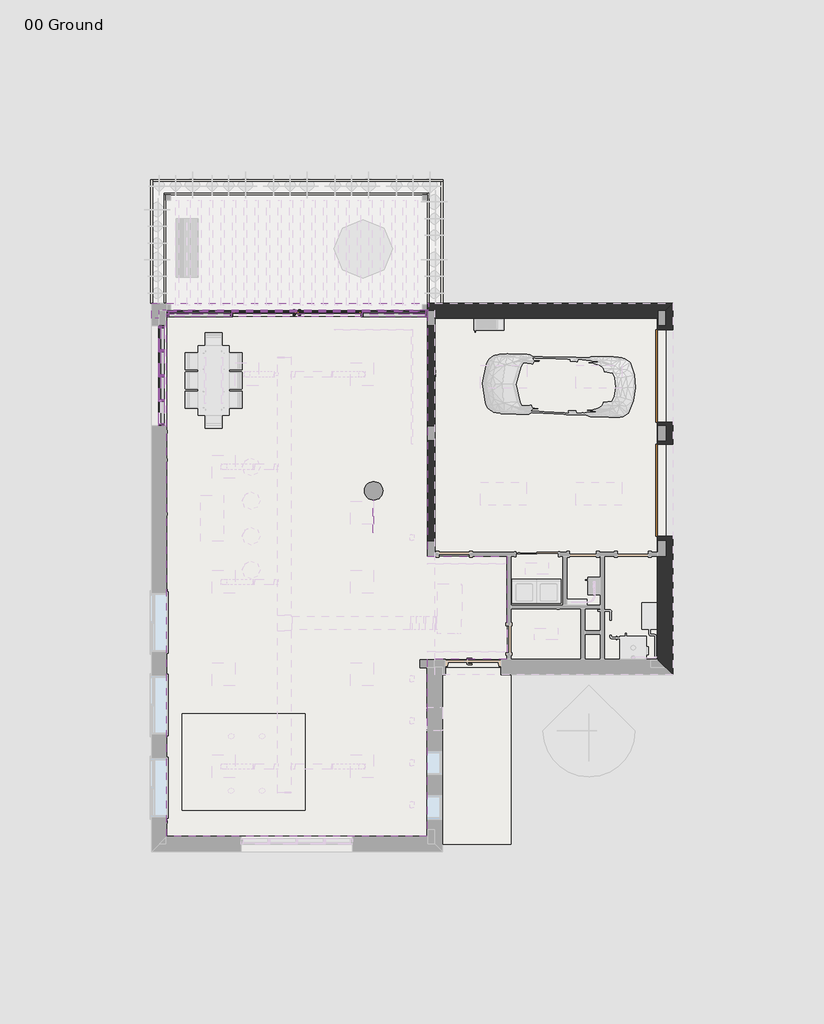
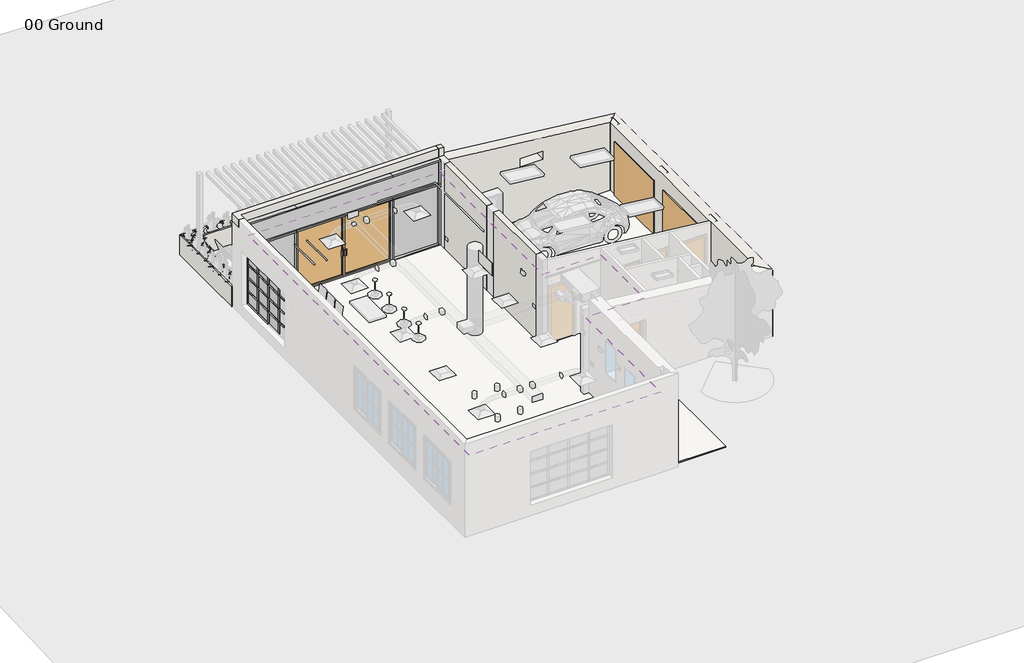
# One storey, part 2 of 7: 50 members, 15 plates, 12 walls, 5 slabs, 3 doors, 1 covering.
"""IFC4 building model written with IfcOpenShell, lengths in millimetres."""

from ifc_helpers import new_model, si_unit, point, frame, frame_2d, origin, origin_with_axes, place, context, project, spatial, polyline, circle_curve, trimmed, segment, composite_curve, outline, extrude, faceted_brep, transform, mapped, element, save
from components import m_door_curtain_wall_double_storefront_m_door_curtain_wall_edb91ac7, m_door_overhead_sectional_2400_x_2000mm_9fe30cd6, rectangular_mullion_50_x_150mm_b8963a12, rectangular_mullion_50_x_150mm_ca64fab8, rectangular_mullion_50_x_150mm_c8600b0d, rectangular_mullion_50_x_150mm_7893aaae, rectangular_mullion_50_x_150mm_57f910c3, rectangular_mullion_50_x_150mm_ec782ea6, rectangular_mullion_50_x_150mm_8753ce05, rectangular_mullion_50_x_150mm_324a6438, rectangular_mullion_50_x_150mm_5618a3b2, rectangular_mullion_50_x_150mm_9d7ed0e7, rectangular_mullion_50_x_150mm_3942d5f1, rectangular_mullion_50_x_150mm_75048c14, rectangular_mullion_50_x_150mm_567eccab, rectangular_mullion_50_x_150mm_22f77a7a, rectangular_mullion_50_x_150mm_0a8c3443, rectangular_mullion_50_x_150mm_b3666dbd, rectangular_mullion_50_x_150mm_fcf054f2, rectangular_mullion_50_x_150mm_24157160, rectangular_mullion_50_x_150mm_bf0cb304, system_panel_glazed_18425fd7, system_panel_glazed_5c27190a, system_panel_glazed_fdc58650, system_panel_glazed_d06015c9, system_panel_glazed_e38ec663, system_panel_glazed_707fa540, system_panel_solid_6db23722

model = new_model("IFC4")

# Units and contexts
model_context = context("Model", 3, world=origin())
ifc_project = project(units=[si_unit("LENGTHUNIT", "METRE", prefix="MILLI")], contexts=[model_context])

# Site, building, storey
site = spatial("IfcSite", under=ifc_project)
building = spatial("IfcBuilding", under=site)
storey = spatial("IfcBuildingStorey", under=building, Name="00 Ground", Elevation=0.0)

# Covering
placement = place(None, origin())
element("IfcCovering", 1, ObjectType="600 x 600mm Grid", at=placement, inside=storey, context=model_context, shape_type="SweptSolid", body=[
    extrude(outline(polyline([(746.9592001, -62.7101648), (746.9592001, -2749.7101648), (-1335.5407999, -2749.7101648), (-1335.5407999, -7349.7101648), (-8109.5407999, -7349.7101648), (-8109.5407999, 6242.2898352), (-1322.5407999, 6242.2898352), (-1322.5407999, -62.7101648), (746.9592001, -62.7101648)]), holes=[composite_curve([segment(trimmed(circle_curve(frame_2d((-2722.5259059, 1637.3625525)), 1040.0291404), [point((-2709.6572376, 597.4130295))], [point((-3567.9307523, 2243.1275717))], True, "CARTESIAN"), True, "CONTINUOUS"), segment(polyline([(-3567.9307523, 2243.1275717), (-2917.4905837, 1777.2704832)]), True, "CONTINUOUS"), segment(trimmed(circle_curve(frame_2d((-2722.5407999, 1637.2898352)), 240.0), [point((-2917.4905837, 1777.2704832))], [point((-2722.1471238, 1397.2901581))], True, "CARTESIAN"), True, "CONTINUOUS"), segment(polyline([(-2722.1471238, 1397.2901581), (-2709.6572376, 597.4130295)]), True, "CONTINUOUS")], self_intersect=False), polyline([(-7224.5407999, 1527.2898352), (-7224.5407999, 327.2898352), (-6624.5407999, 327.2898352), (-6624.5407999, 1527.2898352), (-7224.5407999, 1527.2898352)]), composite_curve([segment(trimmed(circle_curve(frame_2d((-6428.7769593, -4749.7803558)), 76.2), [point((-6352.5769593, -4749.7803558))], [point((-6504.9769593, -4749.7803558))], True, "CARTESIAN"), True, "CONTINUOUS"), segment(trimmed(circle_curve(frame_2d((-6428.7769593, -4749.7803558)), 76.2), [point((-6504.9769593, -4749.7803558))], [point((-6352.5769593, -4749.7803558))], True, "CARTESIAN"), True, "CONTINUOUS")], self_intersect=False), composite_curve([segment(trimmed(circle_curve(frame_2d((-5626.5393268, -4749.7101648)), 76.2), [point((-5550.3393268, -4749.7101648))], [point((-5702.7393268, -4749.7101648))], True, "CARTESIAN"), True, "CONTINUOUS"), segment(trimmed(circle_curve(frame_2d((-5626.5393268, -4749.7101648)), 76.2), [point((-5702.7393268, -4749.7101648))], [point((-5550.3393268, -4749.7101648))], True, "CARTESIAN"), True, "CONTINUOUS")], self_intersect=False), composite_curve([segment(trimmed(circle_curve(frame_2d((-5626.5393268, -6169.7101648)), 76.2), [point((-5550.3393268, -6169.7101648))], [point((-5702.7393268, -6169.7101648))], True, "CARTESIAN"), True, "CONTINUOUS"), segment(trimmed(circle_curve(frame_2d((-5626.5393268, -6169.7101648)), 76.2), [point((-5702.7393268, -6169.7101648))], [point((-5550.3393268, -6169.7101648))], True, "CARTESIAN"), True, "CONTINUOUS")], self_intersect=False), composite_curve([segment(trimmed(circle_curve(frame_2d((-6430.080594, -6169.7792229)), 76.2), [point((-6353.880594, -6169.7792229))], [point((-6506.280594, -6169.7792229))], True, "CARTESIAN"), True, "CONTINUOUS"), segment(trimmed(circle_curve(frame_2d((-6430.080594, -6169.7792229)), 76.2), [point((-6506.280594, -6169.7792229))], [point((-6353.880594, -6169.7792229))], True, "CARTESIAN"), True, "CONTINUOUS")], self_intersect=False)]), frame((0.0, 0.0, 2700.0), z_axis=(0.0, 0.0, 1.0), x_axis=(1.0, 0.0, 0.0)), (0.0, 0.0, 1.0), 52.0),
])

# Doors
m_door_curtain_wall_double_storefront_m_door_curtain_wall_shape = m_door_curtain_wall_double_storefront_m_door_curtain_wall_edb91ac7(model_context)
element("IfcDoor", 2, ObjectType="M_Door-Curtain-Wall-Double-Storefront : M_Door-Curtain-Wall-Double-Storefront", at=placement, inside=storey, context=model_context, shape_type="MappedRepresentation", body=[
    mapped(m_door_curtain_wall_double_storefront_m_door_curtain_wall_shape, transform((-4722.5407999, 6242.2898352, 0.0), x_axis=(1.0, 0.0, 0.0), y_axis=(0.0, 1.0, 0.0), z_axis=(0.0, 0.0, 1.0))),
])
m_door_overhead_sectional_2400_x_2000mm_shape = m_door_overhead_sectional_2400_x_2000mm_9fe30cd6(model_context)
element("IfcDoor", 3, ObjectType="M_Door-Overhead-Sectional : 2400 x 2000mm", at=placement, inside=storey, context=model_context, shape_type="MappedRepresentation", body=[
    mapped(m_door_overhead_sectional_2400_x_2000mm_shape, transform((4863.4592001, 4624.2898352, 0.0), x_axis=(0.0, -1.0, 0.0), y_axis=(1.0, 0.0, 0.0), z_axis=(0.0, 0.0, 1.0))),
])
element("IfcDoor", 4, ObjectType="M_Door-Overhead-Sectional : 2400 x 2000mm", at=placement, inside=storey, context=model_context, shape_type="MappedRepresentation", body=[
    mapped(m_door_overhead_sectional_2400_x_2000mm_shape, transform((4863.4592001, 1650.2898352, 0.0), x_axis=(0.0, -1.0, 0.0), y_axis=(1.0, 0.0, 0.0), z_axis=(0.0, 0.0, 1.0))),
])

# Members
rectangular_mullion_50_x_150mm_shape = rectangular_mullion_50_x_150mm_b8963a12(model_context)
element("IfcMember", 5, ObjectType="Rectangular Mullion : 50 x 150mm", at=placement, inside=storey, context=model_context, shape_type="MappedRepresentation", body=[
    mapped(rectangular_mullion_50_x_150mm_shape, transform((-2997.5407999, 6242.2898352, 0.0), x_axis=(0.0, 0.0, -1.0), y_axis=(0.0, -1.0, 0.0), z_axis=(-1.0, 0.0, 0.0))),
])
rectangular_mullion_50_x_150mm_2_shape = rectangular_mullion_50_x_150mm_ca64fab8(model_context)
element("IfcMember", 6, ObjectType="Rectangular Mullion : 50 x 150mm", at=placement, inside=storey, context=model_context, shape_type="MappedRepresentation", body=[
    mapped(rectangular_mullion_50_x_150mm_2_shape, transform((-3022.5407999, 6242.2898352, 3200.0), x_axis=(0.0, 0.0, 1.0), y_axis=(0.0, -1.0, 0.0), z_axis=(1.0, 0.0, 0.0))),
])
rectangular_mullion_50_x_150mm_3_shape = rectangular_mullion_50_x_150mm_c8600b0d(model_context)
element("IfcMember", 7, ObjectType="Rectangular Mullion : 50 x 150mm", at=placement, inside=storey, context=model_context, shape_type="MappedRepresentation", body=[
    mapped(rectangular_mullion_50_x_150mm_3_shape, transform((-1322.5407999, 6242.2898352, 3200.0), x_axis=(0.0, 0.0, 1.0), y_axis=(0.0, -1.0, 0.0), z_axis=(1.0, 0.0, 0.0))),
])
rectangular_mullion_50_x_150mm_4_shape = rectangular_mullion_50_x_150mm_7893aaae(model_context)
element("IfcMember", 8, ObjectType="Rectangular Mullion : 50 x 150mm", at=placement, inside=storey, context=model_context, shape_type="MappedRepresentation", body=[
    mapped(rectangular_mullion_50_x_150mm_4_shape, transform((-1372.5407999, 6242.2898352, 2300.0), x_axis=(0.0, 0.0, 1.0), y_axis=(0.0, -1.0, 0.0), z_axis=(1.0, 0.0, 0.0))),
])
rectangular_mullion_50_x_150mm_5_shape = rectangular_mullion_50_x_150mm_57f910c3(model_context)
element("IfcMember", 9, ObjectType="Rectangular Mullion : 50 x 150mm", at=placement, inside=storey, context=model_context, shape_type="MappedRepresentation", body=[
    mapped(rectangular_mullion_50_x_150mm_5_shape, transform((-3022.5407999, 6242.2898352, 2300.0), x_axis=(0.0, 0.0, 1.0), y_axis=(0.0, -1.0, 0.0), z_axis=(1.0, 0.0, 0.0))),
])
rectangular_mullion_50_x_150mm_6_shape = rectangular_mullion_50_x_150mm_ec782ea6(model_context)
element("IfcMember", 10, ObjectType="Rectangular Mullion : 50 x 150mm", at=placement, inside=storey, context=model_context, shape_type="MappedRepresentation", body=[
    mapped(rectangular_mullion_50_x_150mm_6_shape, transform((-6422.5407999, 6242.2898352, 0.0), x_axis=(1.0, 0.0, 0.0), y_axis=(0.0, -1.0, 0.0), z_axis=(0.0, 0.0, -1.0))),
])
element("IfcMember", 11, ObjectType="Rectangular Mullion : 50 x 150mm", at=placement, inside=storey, context=model_context, shape_type="MappedRepresentation", body=[
    mapped(rectangular_mullion_50_x_150mm_6_shape, transform((-3022.5407999, 6242.2898352, 0.0), x_axis=(1.0, 0.0, 0.0), y_axis=(0.0, -1.0, 0.0), z_axis=(0.0, 0.0, -1.0))),
])
rectangular_mullion_50_x_150mm_7_shape = rectangular_mullion_50_x_150mm_8753ce05(model_context)
element("IfcMember", 12, ObjectType="Rectangular Mullion : 50 x 150mm", at=placement, inside=storey, context=model_context, shape_type="MappedRepresentation", body=[
    mapped(rectangular_mullion_50_x_150mm_7_shape, transform((-1322.5407999, 6242.2898352, 0.0), x_axis=(1.0, 0.0, 0.0), y_axis=(0.0, -1.0, 0.0), z_axis=(0.0, 0.0, -1.0))),
])
rectangular_mullion_50_x_150mm_8_shape = rectangular_mullion_50_x_150mm_324a6438(model_context)
element("IfcMember", 13, ObjectType="Rectangular Mullion : 50 x 150mm", at=placement, inside=storey, context=model_context, shape_type="MappedRepresentation", body=[
    mapped(rectangular_mullion_50_x_150mm_8_shape, transform((-8109.5407999, 6242.2898352, 3150.0), x_axis=(-1.0, 0.0, 0.0), y_axis=(0.0, -1.0, 0.0), z_axis=(0.0, 0.0, 1.0))),
])
element("IfcMember", 14, ObjectType="Rectangular Mullion : 50 x 150mm", at=placement, inside=storey, context=model_context, shape_type="MappedRepresentation", body=[
    mapped(rectangular_mullion_50_x_150mm_8_shape, transform((-1322.5407999, 6242.2898352, 2300.0), x_axis=(1.0, 0.0, 0.0), y_axis=(0.0, -1.0, 0.0), z_axis=(0.0, 0.0, -1.0))),
])
element("IfcMember", 15, ObjectType="Rectangular Mullion : 50 x 150mm", at=placement, inside=storey, context=model_context, shape_type="MappedRepresentation", body=[
    mapped(rectangular_mullion_50_x_150mm_7_shape, transform((-8109.5407999, 6242.2898352, 2300.0), x_axis=(-1.0, 0.0, 0.0), y_axis=(0.0, -1.0, 0.0), z_axis=(0.0, 0.0, 1.0))),
])
rectangular_mullion_50_x_150mm_9_shape = rectangular_mullion_50_x_150mm_5618a3b2(model_context)
element("IfcMember", 16, ObjectType="Rectangular Mullion : 50 x 150mm", at=placement, inside=storey, context=model_context, shape_type="MappedRepresentation", body=[
    mapped(rectangular_mullion_50_x_150mm_9_shape, transform((-8247.5407999, 5937.2898352, 2400.0), x_axis=(0.0, 0.0, 1.0), y_axis=(1.0, 0.0, 0.0), z_axis=(0.0, 1.0, 0.0))),
])
rectangular_mullion_50_x_150mm_10_shape = rectangular_mullion_50_x_150mm_9d7ed0e7(model_context)
element("IfcMember", 17, ObjectType="Rectangular Mullion : 50 x 150mm", at=placement, inside=storey, context=model_context, shape_type="MappedRepresentation", body=[
    mapped(rectangular_mullion_50_x_150mm_10_shape, transform((-8247.5407999, 4637.2898352, 2400.0), x_axis=(0.0, 0.0, 1.0), y_axis=(1.0, 0.0, 0.0), z_axis=(0.0, 1.0, 0.0))),
])
element("IfcMember", 18, ObjectType="Rectangular Mullion : 50 x 150mm", at=placement, inside=storey, context=model_context, shape_type="MappedRepresentation", body=[
    mapped(rectangular_mullion_50_x_150mm_10_shape, transform((-8247.5407999, 5287.2898351, 2400.0), x_axis=(0.0, 0.0, 1.0), y_axis=(1.0, 0.0, 0.0), z_axis=(0.0, 1.0, 0.0))),
])
element("IfcMember", 19, ObjectType="Rectangular Mullion : 50 x 150mm", at=placement, inside=storey, context=model_context, shape_type="MappedRepresentation", body=[
    mapped(rectangular_mullion_50_x_150mm_10_shape, transform((-8247.5407999, 4637.2898352, 400.0), x_axis=(0.0, 0.0, -1.0), y_axis=(1.0, 0.0, 0.0), z_axis=(0.0, -1.0, 0.0))),
])
element("IfcMember", 20, ObjectType="Rectangular Mullion : 50 x 150mm", at=placement, inside=storey, context=model_context, shape_type="MappedRepresentation", body=[
    mapped(rectangular_mullion_50_x_150mm_9_shape, transform((-8247.5407999, 5287.2898351, 400.0), x_axis=(0.0, 0.0, -1.0), y_axis=(1.0, 0.0, 0.0), z_axis=(0.0, -1.0, 0.0))),
])
rectangular_mullion_50_x_150mm_11_shape = rectangular_mullion_50_x_150mm_3942d5f1(model_context)
element("IfcMember", 21, ObjectType="Rectangular Mullion : 50 x 150mm", at=placement, inside=storey, context=model_context, shape_type="MappedRepresentation", body=[
    mapped(rectangular_mullion_50_x_150mm_11_shape, transform((-8247.5407999, 3962.2898354, 900.0), x_axis=(0.0, 0.0, 1.0), y_axis=(1.0, 0.0, 0.0), z_axis=(0.0, 1.0, 0.0))),
])
element("IfcMember", 22, ObjectType="Rectangular Mullion : 50 x 150mm", at=placement, inside=storey, context=model_context, shape_type="MappedRepresentation", body=[
    mapped(rectangular_mullion_50_x_150mm_11_shape, transform((-8247.5407999, 5887.2898352, 900.0), x_axis=(0.0, 0.0, 1.0), y_axis=(1.0, 0.0, 0.0), z_axis=(0.0, 1.0, 0.0))),
])
element("IfcMember", 23, ObjectType="Rectangular Mullion : 50 x 150mm", at=placement, inside=storey, context=model_context, shape_type="MappedRepresentation", body=[
    mapped(rectangular_mullion_50_x_150mm_11_shape, transform((-8247.5407999, 3962.2898354, 1400.0), x_axis=(0.0, 0.0, 1.0), y_axis=(1.0, 0.0, 0.0), z_axis=(0.0, 1.0, 0.0))),
])
element("IfcMember", 24, ObjectType="Rectangular Mullion : 50 x 150mm", at=placement, inside=storey, context=model_context, shape_type="MappedRepresentation", body=[
    mapped(rectangular_mullion_50_x_150mm_11_shape, transform((-8247.5407999, 5887.2898352, 1400.0), x_axis=(0.0, 0.0, 1.0), y_axis=(1.0, 0.0, 0.0), z_axis=(0.0, 1.0, 0.0))),
])
element("IfcMember", 25, ObjectType="Rectangular Mullion : 50 x 150mm", at=placement, inside=storey, context=model_context, shape_type="MappedRepresentation", body=[
    mapped(rectangular_mullion_50_x_150mm_11_shape, transform((-8247.5407999, 3962.2898354, 1900.0), x_axis=(0.0, 0.0, 1.0), y_axis=(1.0, 0.0, 0.0), z_axis=(0.0, 1.0, 0.0))),
])
element("IfcMember", 26, ObjectType="Rectangular Mullion : 50 x 150mm", at=placement, inside=storey, context=model_context, shape_type="MappedRepresentation", body=[
    mapped(rectangular_mullion_50_x_150mm_11_shape, transform((-8247.5407999, 5887.2898352, 1900.0), x_axis=(0.0, 0.0, 1.0), y_axis=(1.0, 0.0, 0.0), z_axis=(0.0, 1.0, 0.0))),
])
rectangular_mullion_50_x_150mm_12_shape = rectangular_mullion_50_x_150mm_75048c14(model_context)
element("IfcMember", 27, ObjectType="Rectangular Mullion : 50 x 150mm", at=placement, inside=storey, context=model_context, shape_type="MappedRepresentation", body=[
    mapped(rectangular_mullion_50_x_150mm_12_shape, transform((-8247.5407999, 4612.2898352, 900.0), x_axis=(0.0, 0.0, 1.0), y_axis=(1.0, 0.0, 0.0), z_axis=(0.0, 1.0, 0.0))),
])
element("IfcMember", 28, ObjectType="Rectangular Mullion : 50 x 150mm", at=placement, inside=storey, context=model_context, shape_type="MappedRepresentation", body=[
    mapped(rectangular_mullion_50_x_150mm_12_shape, transform((-8247.5407999, 5262.2898351, 900.0), x_axis=(0.0, 0.0, 1.0), y_axis=(1.0, 0.0, 0.0), z_axis=(0.0, 1.0, 0.0))),
])
element("IfcMember", 29, ObjectType="Rectangular Mullion : 50 x 150mm", at=placement, inside=storey, context=model_context, shape_type="MappedRepresentation", body=[
    mapped(rectangular_mullion_50_x_150mm_12_shape, transform((-8247.5407999, 4612.2898352, 1400.0), x_axis=(0.0, 0.0, 1.0), y_axis=(1.0, 0.0, 0.0), z_axis=(0.0, 1.0, 0.0))),
])
element("IfcMember", 30, ObjectType="Rectangular Mullion : 50 x 150mm", at=placement, inside=storey, context=model_context, shape_type="MappedRepresentation", body=[
    mapped(rectangular_mullion_50_x_150mm_12_shape, transform((-8247.5407999, 5262.2898351, 1400.0), x_axis=(0.0, 0.0, 1.0), y_axis=(1.0, 0.0, 0.0), z_axis=(0.0, 1.0, 0.0))),
])
element("IfcMember", 31, ObjectType="Rectangular Mullion : 50 x 150mm", at=placement, inside=storey, context=model_context, shape_type="MappedRepresentation", body=[
    mapped(rectangular_mullion_50_x_150mm_12_shape, transform((-8247.5407999, 4612.2898352, 1900.0), x_axis=(0.0, 0.0, 1.0), y_axis=(1.0, 0.0, 0.0), z_axis=(0.0, 1.0, 0.0))),
])
element("IfcMember", 32, ObjectType="Rectangular Mullion : 50 x 150mm", at=placement, inside=storey, context=model_context, shape_type="MappedRepresentation", body=[
    mapped(rectangular_mullion_50_x_150mm_12_shape, transform((-8247.5407999, 5262.2898351, 1900.0), x_axis=(0.0, 0.0, 1.0), y_axis=(1.0, 0.0, 0.0), z_axis=(0.0, 1.0, 0.0))),
])
rectangular_mullion_50_x_150mm_13_shape = rectangular_mullion_50_x_150mm_567eccab(model_context)
element("IfcMember", 33, ObjectType="Rectangular Mullion : 50 x 150mm", at=placement, inside=storey, context=model_context, shape_type="MappedRepresentation", body=[
    mapped(rectangular_mullion_50_x_150mm_13_shape, transform((-8247.5407999, 3987.2898354, 450.0), x_axis=(0.0, 1.0, 0.0), y_axis=(1.0, 0.0, 0.0), z_axis=(0.0, 0.0, -1.0))),
])
element("IfcMember", 34, ObjectType="Rectangular Mullion : 50 x 150mm", at=placement, inside=storey, context=model_context, shape_type="MappedRepresentation", body=[
    mapped(rectangular_mullion_50_x_150mm_13_shape, transform((-8247.5407999, 4637.2898352, 450.0), x_axis=(0.0, 1.0, 0.0), y_axis=(1.0, 0.0, 0.0), z_axis=(0.0, 0.0, -1.0))),
])
element("IfcMember", 35, ObjectType="Rectangular Mullion : 50 x 150mm", at=placement, inside=storey, context=model_context, shape_type="MappedRepresentation", body=[
    mapped(rectangular_mullion_50_x_150mm_13_shape, transform((-8247.5407999, 5287.2898351, 450.0), x_axis=(0.0, 1.0, 0.0), y_axis=(1.0, 0.0, 0.0), z_axis=(0.0, 0.0, -1.0))),
])
rectangular_mullion_50_x_150mm_14_shape = rectangular_mullion_50_x_150mm_22f77a7a(model_context)
element("IfcMember", 36, ObjectType="Rectangular Mullion : 50 x 150mm", at=placement, inside=storey, context=model_context, shape_type="MappedRepresentation", body=[
    mapped(rectangular_mullion_50_x_150mm_14_shape, transform((-8247.5407999, 3987.2898354, 900.0), x_axis=(0.0, 1.0, 0.0), y_axis=(1.0, 0.0, 0.0), z_axis=(0.0, 0.0, -1.0))),
])
element("IfcMember", 37, ObjectType="Rectangular Mullion : 50 x 150mm", at=placement, inside=storey, context=model_context, shape_type="MappedRepresentation", body=[
    mapped(rectangular_mullion_50_x_150mm_14_shape, transform((-8247.5407999, 4637.2898352, 900.0), x_axis=(0.0, 1.0, 0.0), y_axis=(1.0, 0.0, 0.0), z_axis=(0.0, 0.0, -1.0))),
])
element("IfcMember", 38, ObjectType="Rectangular Mullion : 50 x 150mm", at=placement, inside=storey, context=model_context, shape_type="MappedRepresentation", body=[
    mapped(rectangular_mullion_50_x_150mm_14_shape, transform((-8247.5407999, 5287.2898351, 900.0), x_axis=(0.0, 1.0, 0.0), y_axis=(1.0, 0.0, 0.0), z_axis=(0.0, 0.0, -1.0))),
])
element("IfcMember", 39, ObjectType="Rectangular Mullion : 50 x 150mm", at=placement, inside=storey, context=model_context, shape_type="MappedRepresentation", body=[
    mapped(rectangular_mullion_50_x_150mm_14_shape, transform((-8247.5407999, 3987.2898354, 1400.0), x_axis=(0.0, 1.0, 0.0), y_axis=(1.0, 0.0, 0.0), z_axis=(0.0, 0.0, -1.0))),
])
element("IfcMember", 40, ObjectType="Rectangular Mullion : 50 x 150mm", at=placement, inside=storey, context=model_context, shape_type="MappedRepresentation", body=[
    mapped(rectangular_mullion_50_x_150mm_14_shape, transform((-8247.5407999, 4637.2898352, 1400.0), x_axis=(0.0, 1.0, 0.0), y_axis=(1.0, 0.0, 0.0), z_axis=(0.0, 0.0, -1.0))),
])
element("IfcMember", 41, ObjectType="Rectangular Mullion : 50 x 150mm", at=placement, inside=storey, context=model_context, shape_type="MappedRepresentation", body=[
    mapped(rectangular_mullion_50_x_150mm_14_shape, transform((-8247.5407999, 5287.2898351, 1400.0), x_axis=(0.0, 1.0, 0.0), y_axis=(1.0, 0.0, 0.0), z_axis=(0.0, 0.0, -1.0))),
])
element("IfcMember", 42, ObjectType="Rectangular Mullion : 50 x 150mm", at=placement, inside=storey, context=model_context, shape_type="MappedRepresentation", body=[
    mapped(rectangular_mullion_50_x_150mm_13_shape, transform((-8247.5407999, 3987.2898354, 1900.0), x_axis=(0.0, 1.0, 0.0), y_axis=(1.0, 0.0, 0.0), z_axis=(0.0, 0.0, -1.0))),
])
element("IfcMember", 43, ObjectType="Rectangular Mullion : 50 x 150mm", at=placement, inside=storey, context=model_context, shape_type="MappedRepresentation", body=[
    mapped(rectangular_mullion_50_x_150mm_13_shape, transform((-8247.5407999, 4637.2898352, 1900.0), x_axis=(0.0, 1.0, 0.0), y_axis=(1.0, 0.0, 0.0), z_axis=(0.0, 0.0, -1.0))),
])
element("IfcMember", 44, ObjectType="Rectangular Mullion : 50 x 150mm", at=placement, inside=storey, context=model_context, shape_type="MappedRepresentation", body=[
    mapped(rectangular_mullion_50_x_150mm_13_shape, transform((-8247.5407999, 5287.2898351, 1900.0), x_axis=(0.0, 1.0, 0.0), y_axis=(1.0, 0.0, 0.0), z_axis=(0.0, 0.0, -1.0))),
])
rectangular_mullion_50_x_150mm_15_shape = rectangular_mullion_50_x_150mm_0a8c3443(model_context)
element("IfcMember", 45, ObjectType="Rectangular Mullion : 50 x 150mm", at=placement, inside=storey, context=model_context, shape_type="MappedRepresentation", body=[
    mapped(rectangular_mullion_50_x_150mm_15_shape, transform((-8247.5407999, 5937.2898352, 450.0), x_axis=(0.0, 1.0, 0.0), y_axis=(1.0, 0.0, 0.0), z_axis=(0.0, 0.0, -1.0))),
])
rectangular_mullion_50_x_150mm_16_shape = rectangular_mullion_50_x_150mm_b3666dbd(model_context)
element("IfcMember", 46, ObjectType="Rectangular Mullion : 50 x 150mm", at=placement, inside=storey, context=model_context, shape_type="MappedRepresentation", body=[
    mapped(rectangular_mullion_50_x_150mm_16_shape, transform((-8247.5407999, 5937.2898352, 900.0), x_axis=(0.0, 1.0, 0.0), y_axis=(1.0, 0.0, 0.0), z_axis=(0.0, 0.0, -1.0))),
])
element("IfcMember", 47, ObjectType="Rectangular Mullion : 50 x 150mm", at=placement, inside=storey, context=model_context, shape_type="MappedRepresentation", body=[
    mapped(rectangular_mullion_50_x_150mm_16_shape, transform((-8247.5407999, 5937.2898352, 1400.0), x_axis=(0.0, 1.0, 0.0), y_axis=(1.0, 0.0, 0.0), z_axis=(0.0, 0.0, -1.0))),
])
element("IfcMember", 48, ObjectType="Rectangular Mullion : 50 x 150mm", at=placement, inside=storey, context=model_context, shape_type="MappedRepresentation", body=[
    mapped(rectangular_mullion_50_x_150mm_15_shape, transform((-8247.5407999, 5937.2898352, 1900.0), x_axis=(0.0, 1.0, 0.0), y_axis=(1.0, 0.0, 0.0), z_axis=(0.0, 0.0, -1.0))),
])
element("IfcMember", 49, ObjectType="Rectangular Mullion : 50 x 150mm", at=placement, inside=storey, context=model_context, shape_type="MappedRepresentation", body=[
    mapped(rectangular_mullion_50_x_150mm_15_shape, transform((-8247.5407999, 3337.2898352, 900.0), x_axis=(0.0, -1.0, 0.0), y_axis=(1.0, 0.0, 0.0), z_axis=(0.0, 0.0, 1.0))),
])
element("IfcMember", 50, ObjectType="Rectangular Mullion : 50 x 150mm", at=placement, inside=storey, context=model_context, shape_type="MappedRepresentation", body=[
    mapped(rectangular_mullion_50_x_150mm_16_shape, transform((-8247.5407999, 3337.2898352, 1400.0), x_axis=(0.0, -1.0, 0.0), y_axis=(1.0, 0.0, 0.0), z_axis=(0.0, 0.0, 1.0))),
])
element("IfcMember", 51, ObjectType="Rectangular Mullion : 50 x 150mm", at=placement, inside=storey, context=model_context, shape_type="MappedRepresentation", body=[
    mapped(rectangular_mullion_50_x_150mm_16_shape, transform((-8247.5407999, 3337.2898352, 1900.0), x_axis=(0.0, -1.0, 0.0), y_axis=(1.0, 0.0, 0.0), z_axis=(0.0, 0.0, 1.0))),
])
rectangular_mullion_50_x_150mm_17_shape = rectangular_mullion_50_x_150mm_fcf054f2(model_context)
element("IfcMember", 52, ObjectType="Rectangular Mullion : 50 x 150mm", at=placement, inside=storey, context=model_context, shape_type="MappedRepresentation", body=[
    mapped(rectangular_mullion_50_x_150mm_17_shape, transform((-6422.5407999, 6242.2898352, 3200.0), x_axis=(0.0, 0.0, 1.0), y_axis=(0.0, -1.0, 0.0), z_axis=(1.0, 0.0, 0.0))),
])
rectangular_mullion_50_x_150mm_18_shape = rectangular_mullion_50_x_150mm_24157160(model_context)
element("IfcMember", 53, ObjectType="Rectangular Mullion : 50 x 150mm", at=placement, inside=storey, context=model_context, shape_type="MappedRepresentation", body=[
    mapped(rectangular_mullion_50_x_150mm_18_shape, transform((-8059.5407999, 6242.2898352, 0.0), x_axis=(0.0, 0.0, -1.0), y_axis=(0.0, -1.0, 0.0), z_axis=(-1.0, 0.0, 0.0))),
])
rectangular_mullion_50_x_150mm_19_shape = rectangular_mullion_50_x_150mm_bf0cb304(model_context)
element("IfcMember", 54, ObjectType="Rectangular Mullion : 50 x 150mm", at=placement, inside=storey, context=model_context, shape_type="MappedRepresentation", body=[
    mapped(rectangular_mullion_50_x_150mm_19_shape, transform((-6422.5407999, 6242.2898352, 2300.0), x_axis=(0.0, 0.0, 1.0), y_axis=(0.0, -1.0, 0.0), z_axis=(1.0, 0.0, 0.0))),
])

# Plates
system_panel_glazed_shape = system_panel_glazed_18425fd7(model_context)
element("IfcPlate", 55, ObjectType="System Panel : Glazed", at=placement, inside=storey, context=model_context, shape_type="MappedRepresentation", body=[
    mapped(system_panel_glazed_shape, transform((-2185.0407999, 6242.2898352, 50.0), x_axis=(1.0, 0.0, 0.0), y_axis=(0.0, 1.0, 0.0), z_axis=(0.0, 0.0, 1.0))),
])
system_panel_glazed_2_shape = system_panel_glazed_5c27190a(model_context)
element("IfcPlate", 56, ObjectType="System Panel : Glazed", at=placement, inside=storey, context=model_context, shape_type="MappedRepresentation", body=[
    mapped(system_panel_glazed_2_shape, transform((-8247.5407999, 5599.7898352, 450.0), x_axis=(0.0, 1.0, 0.0), y_axis=(-1.0, 0.0, 0.0), z_axis=(0.0, 0.0, 1.0))),
])
element("IfcPlate", 57, ObjectType="System Panel : Glazed", at=placement, inside=storey, context=model_context, shape_type="MappedRepresentation", body=[
    mapped(system_panel_glazed_2_shape, transform((-8247.5407999, 5599.7898352, 1925.0), x_axis=(0.0, 1.0, 0.0), y_axis=(-1.0, 0.0, 0.0), z_axis=(0.0, 0.0, 1.0))),
])
system_panel_glazed_3_shape = system_panel_glazed_fdc58650(model_context)
element("IfcPlate", 58, ObjectType="System Panel : Glazed", at=placement, inside=storey, context=model_context, shape_type="MappedRepresentation", body=[
    mapped(system_panel_glazed_3_shape, transform((-8247.5407999, 4312.2898353, 450.0), x_axis=(0.0, 1.0, 0.0), y_axis=(-1.0, 0.0, 0.0), z_axis=(0.0, 0.0, 1.0))),
])
element("IfcPlate", 59, ObjectType="System Panel : Glazed", at=placement, inside=storey, context=model_context, shape_type="MappedRepresentation", body=[
    mapped(system_panel_glazed_3_shape, transform((-8247.5407999, 4962.2898352, 450.0), x_axis=(0.0, 1.0, 0.0), y_axis=(-1.0, 0.0, 0.0), z_axis=(0.0, 0.0, 1.0))),
])
element("IfcPlate", 60, ObjectType="System Panel : Glazed", at=placement, inside=storey, context=model_context, shape_type="MappedRepresentation", body=[
    mapped(system_panel_glazed_3_shape, transform((-8247.5407999, 4312.2898353, 1925.0), x_axis=(0.0, 1.0, 0.0), y_axis=(-1.0, 0.0, 0.0), z_axis=(0.0, 0.0, 1.0))),
])
element("IfcPlate", 61, ObjectType="System Panel : Glazed", at=placement, inside=storey, context=model_context, shape_type="MappedRepresentation", body=[
    mapped(system_panel_glazed_3_shape, transform((-8247.5407999, 4962.2898352, 1925.0), x_axis=(0.0, 1.0, 0.0), y_axis=(-1.0, 0.0, 0.0), z_axis=(0.0, 0.0, 1.0))),
])
system_panel_glazed_4_shape = system_panel_glazed_d06015c9(model_context)
element("IfcPlate", 62, ObjectType="System Panel : Glazed", at=placement, inside=storey, context=model_context, shape_type="MappedRepresentation", body=[
    mapped(system_panel_glazed_4_shape, transform((-8247.5407999, 5599.7898352, 925.0), x_axis=(0.0, 1.0, 0.0), y_axis=(-1.0, 0.0, 0.0), z_axis=(0.0, 0.0, 1.0))),
])
element("IfcPlate", 63, ObjectType="System Panel : Glazed", at=placement, inside=storey, context=model_context, shape_type="MappedRepresentation", body=[
    mapped(system_panel_glazed_4_shape, transform((-8247.5407999, 5599.7898352, 1425.0), x_axis=(0.0, 1.0, 0.0), y_axis=(-1.0, 0.0, 0.0), z_axis=(0.0, 0.0, 1.0))),
])
system_panel_glazed_5_shape = system_panel_glazed_e38ec663(model_context)
element("IfcPlate", 64, ObjectType="System Panel : Glazed", at=placement, inside=storey, context=model_context, shape_type="MappedRepresentation", body=[
    mapped(system_panel_glazed_5_shape, transform((-8247.5407999, 4312.2898353, 925.0), x_axis=(0.0, 1.0, 0.0), y_axis=(-1.0, 0.0, 0.0), z_axis=(0.0, 0.0, 1.0))),
])
element("IfcPlate", 65, ObjectType="System Panel : Glazed", at=placement, inside=storey, context=model_context, shape_type="MappedRepresentation", body=[
    mapped(system_panel_glazed_5_shape, transform((-8247.5407999, 4962.2898352, 925.0), x_axis=(0.0, 1.0, 0.0), y_axis=(-1.0, 0.0, 0.0), z_axis=(0.0, 0.0, 1.0))),
])
element("IfcPlate", 66, ObjectType="System Panel : Glazed", at=placement, inside=storey, context=model_context, shape_type="MappedRepresentation", body=[
    mapped(system_panel_glazed_5_shape, transform((-8247.5407999, 4312.2898353, 1425.0), x_axis=(0.0, 1.0, 0.0), y_axis=(-1.0, 0.0, 0.0), z_axis=(0.0, 0.0, 1.0))),
])
element("IfcPlate", 67, ObjectType="System Panel : Glazed", at=placement, inside=storey, context=model_context, shape_type="MappedRepresentation", body=[
    mapped(system_panel_glazed_5_shape, transform((-8247.5407999, 4962.2898352, 1425.0), x_axis=(0.0, 1.0, 0.0), y_axis=(-1.0, 0.0, 0.0), z_axis=(0.0, 0.0, 1.0))),
])
system_panel_glazed_6_shape = system_panel_glazed_707fa540(model_context)
element("IfcPlate", 68, ObjectType="System Panel : Glazed", at=placement, inside=storey, context=model_context, shape_type="MappedRepresentation", body=[
    mapped(system_panel_glazed_6_shape, transform((-7253.5407999, 6242.2898352, 50.0), x_axis=(1.0, 0.0, 0.0), y_axis=(0.0, 1.0, 0.0), z_axis=(0.0, 0.0, 1.0))),
])
system_panel_solid_shape = system_panel_solid_6db23722(model_context)
element("IfcPlate", 69, ObjectType="System Panel : Solid", at=placement, inside=storey, context=model_context, shape_type="MappedRepresentation", body=[
    mapped(system_panel_solid_shape, transform((-4716.0407999, 6242.2898352, 2325.0), x_axis=(1.0, 0.0, 0.0), y_axis=(0.0, 1.0, 0.0), z_axis=(0.0, 0.0, 1.0))),
])

# Slabs
element("IfcSlab", 70, ObjectType="DECK FLOOR TILES 40mm", at=placement, inside=storey, context=model_context, shape_type="SweptSolid", body=[
    extrude(outline(polyline([(-937.5407999, -7562.7101648), (-937.5407999, -3147.7101648), (-857.5407999, -3147.7101648), (-857.5407999, -2962.7101648), (592.4592001, -2962.7101648), (592.4592001, -3147.7101648), (846.9592001, -3147.7101648), (846.9592001, -7562.7101648), (-937.5407999, -7562.7101648)])), origin_with_axes(), (0.0, 0.0, 1.0), 40.0),
])
element("IfcSlab", 71, ObjectType="Floor Parquet 15mm", at=placement, inside=storey, context=model_context, shape_type="SweptSolid", body=[
    extrude(outline(polyline([(-8109.5407999, 6167.2898352), (-1322.5407999, 6167.2898352), (-1322.5407999, -62.7101648), (746.9592001, -62.7101648), (746.9592001, -2749.7101648), (-1335.5407999, -2749.7101648), (-1335.5407999, -7349.7101648), (-8109.5407999, -7349.7101648), (-8109.5407999, 6167.2898352)])), origin_with_axes(), (0.0, 0.0, 1.0), 15.0),
])
element("IfcSlab", 72, ObjectType="Generic 300mm", at=placement, inside=storey, context=model_context, shape_type="Brep", body=[
    faceted_brep([(-8322.5407999, 6337.2898352, -300.0), (-8122.5407999, 6337.2898352, -300.0), (-1322.5407999, 6337.2898352, -300.0), (-1122.5407999, 6337.2898352, -300.0), (4677.4592001, 6337.2898352, -300.0), (4877.4592001, 6337.2898352, -300.0), (4877.4592001, 5937.2898352, -300.0), (4877.4592001, 3337.2898352, -300.0), (4877.4592001, 2937.2898352, -300.0), (4877.4592001, 337.2898352, -300.0), (4877.4592001, -62.7101648, -300.0), (4877.4592001, -2762.7101648, -300.0), (4877.4592001, -2962.7101648, -300.0), (4477.4592001, -2962.7101648, -300.0), (-1122.5407999, -2962.7101648, -300.0), (-1122.5407999, -7162.7101648, -300.0), (-1122.5407999, -7562.7101648, -300.0), (-1322.5407999, -7562.7101648, -300.0), (-8122.5407999, -7562.7101648, -300.0), (-8322.5407999, -7562.7101648, -300.0), (-8322.5407999, -7162.7101648, -300.0), (-8322.5407999, -3062.7101648, -300.0), (-8322.5407999, -2662.7101648, -300.0), (-8322.5407999, -62.7101648, -300.0), (-8322.5407999, 337.2898352, -300.0), (-8322.5407999, 2937.2898352, -300.0), (-8322.5407999, 3337.2898352, -300.0), (-8322.5407999, 5937.2898352, -300.0), (-8322.5407999, 6337.2898352, 0.0), (-8322.5407999, 5937.2898352, 0.0), (-8322.5407999, 3337.2898352, 0.0), (-8322.5407999, 2937.2898352, 0.0), (-8322.5407999, 337.2898352, 0.0), (-8322.5407999, -62.7101648, 0.0), (-8322.5407999, -2662.7101648, 0.0), (-8322.5407999, -3062.7101648, 0.0), (-8322.5407999, -7162.7101648, 0.0), (-8322.5407999, -7562.7101648, 0.0), (-8122.5407999, -7562.7101648, 0.0), (-1322.5407999, -7562.7101648, 0.0), (-1122.5407999, -7562.7101648, 0.0), (-1122.5407999, -7162.7101648, 0.0), (-1122.5407999, -2962.7101648, 0.0), (4477.4592001, -2962.7101648, 0.0), (4877.4592001, -2962.7101648, 0.0), (4877.4592001, -2762.7101648, 0.0), (4877.4592001, -62.7101648, 0.0), (4877.4592001, 337.2898352, 0.0), (4877.4592001, 2937.2898352, 0.0), (4877.4592001, 3337.2898352, 0.0), (4877.4592001, 5937.2898352, 0.0), (4877.4592001, 6337.2898352, 0.0), (4677.4592001, 6337.2898352, 0.0), (-1122.5407999, 6337.2898352, 0.0), (-1322.5407999, 6337.2898352, 0.0), (-8122.5407999, 6337.2898352, 0.0)], [[[0, 1, 2, 3, 4, 5, 6, 7, 8, 9, 10, 11, 12, 13, 14, 15, 16, 17, 18, 19, 20, 21, 22, 23, 24, 25, 26, 27]], [[28, 29, 30, 31, 32, 33, 34, 35, 36, 37, 38, 39, 40, 41, 42, 43, 44, 45, 46, 47, 48, 49, 50, 51, 52, 53, 54, 55]], [[5, 4, 3, 2, 1, 0, 28, 55, 54, 53, 52, 51]], [[12, 11, 10, 9, 8, 7, 6, 5, 51, 50, 49, 48, 47, 46, 45, 44]], [[14, 13, 12, 44, 43, 42]], [[16, 15, 14, 42, 41, 40]], [[19, 18, 17, 16, 40, 39, 38, 37]], [[0, 27, 26, 25, 24, 23, 22, 21, 20, 19, 37, 36, 35, 34, 33, 32, 31, 30, 29, 28]]]),
])
element("IfcSlab", 73, ObjectType="TERRACE SLAB 150mm", at=placement, inside=storey, context=model_context, shape_type="SweptSolid", body=[
    extrude(outline(polyline([(846.9592001, -2962.7101648), (846.9592001, -7562.7101648), (-1122.5407999, -7562.7101648), (-1122.5407999, -2962.7101648), (846.9592001, -2962.7101648)])), frame((0.0, 0.0, -150.0), z_axis=(0.0, 0.0, 1.0), x_axis=(1.0, 0.0, 0.0)), (0.0, 0.0, 1.0), 150.0),
])
element("IfcSlab", 74, ObjectType="Teppich 10mm", at=placement, inside=storey, context=model_context, shape_type="SweptSolid", body=[
    extrude(outline(polyline([(-7703.7907999, -4166.2101648), (-4503.7907999, -4166.2101648), (-4503.7907999, -6666.2101648), (-7703.7907999, -6666.2101648), (-7703.7907999, -4166.2101648)])), frame((0.0, 0.0, 15.0), z_axis=(0.0, 0.0, 1.0), x_axis=(1.0, 0.0, 0.0)), (0.0, 0.0, 1.0), 10.0),
])

# Walls
element("IfcWall", 75, ObjectType="45T-25linea", at=placement, inside=storey, context=model_context, shape_type="SweptSolid", body=[
    extrude(outline(polyline([(-967.5407999, 6337.2898352), (-1122.5407999, 6337.2898352), (-1122.5407999, 6382.2898352), (-967.5407999, 6382.2898352), (-967.5407999, 6337.2898352)])), origin_with_axes(), (0.0, 0.0, 1.0), 750.0),
])
element("IfcWall", 76, ObjectType="45T-25linea", at=placement, inside=storey, context=model_context, shape_type="Brep", body=[
    faceted_brep([(-8477.5407999, 6522.2898352, 0.0), (-8477.5407999, 9692.2898352, 0.0), (-8477.5407999, 9737.2898352, 0.0), (-8477.5407999, 9737.2898352, 750.0), (-8477.5407999, 9692.2898352, 750.0), (-8477.5407999, 6522.2898352, 750.0), (-8522.5407999, 6522.2898352, 0.0), (-8522.5407999, 6522.2898352, 750.0), (-8522.5407999, 9737.2898352, 750.0), (-8522.5407999, 9737.2898352, 0.0)], [[[0, 1, 2, 3, 4, 5]], [[6, 7, 8, 9]], [[2, 1, 0, 6, 9]], [[5, 4, 3, 8, 7]], [[0, 5, 7, 6]], [[3, 2, 9, 8]]]),
])
element("IfcWall", 77, ObjectType="45T-25linea", at=placement, inside=storey, context=model_context, shape_type="Brep", body=[
    faceted_brep([(-8477.5407999, 9692.2898352, 0.0), (-967.5407999, 9692.2898352, 0.0), (-922.5407999, 9692.2898352, 0.0), (-922.5407999, 9692.2898352, 750.0), (-967.5407999, 9692.2898352, 750.0), (-8477.5407999, 9692.2898352, 750.0), (-8477.5407999, 9737.2898352, 0.0), (-8477.5407999, 9737.2898352, 750.0), (-922.5407999, 9737.2898352, 750.0), (-922.5407999, 9737.2898352, 0.0)], [[[0, 1, 2, 3, 4, 5]], [[6, 7, 8, 9]], [[2, 1, 0, 6, 9]], [[5, 4, 3, 8, 7]], [[0, 5, 7, 6]], [[3, 2, 9, 8]]]),
])
element("IfcWall", 78, ObjectType="45T-25linea", at=placement, inside=storey, context=model_context, shape_type="SweptSolid", body=[
    extrude(outline(polyline([(-967.5407999, 6522.2898352), (-967.5407999, 9692.2898352), (-922.5407999, 9692.2898352), (-922.5407999, 6522.2898352), (-967.5407999, 6522.2898352)])), origin_with_axes(), (0.0, 0.0, 1.0), 750.0),
])
element("IfcWall", 79, ObjectType="45T-25linea", at=placement, inside=storey, context=model_context, shape_type="Brep", body=[
    faceted_brep([(-1277.5407999, 6522.2898352, 0.0), (-1277.5407999, 9382.2898352, 0.0), (-1277.5407999, 9382.2898352, 750.0), (-1277.5407999, 6522.2898352, 750.0), (-1322.5407999, 6522.2898352, 0.0), (-1322.5407999, 6522.2898352, 750.0), (-1322.5407999, 9337.2898352, 750.0), (-1322.5407999, 9382.2898352, 750.0), (-1322.5407999, 9382.2898352, 0.0), (-1322.5407999, 9337.2898352, 0.0)], [[[0, 1, 2, 3]], [[4, 5, 6, 7, 8, 9]], [[1, 0, 4, 9, 8]], [[3, 2, 7, 6, 5]], [[0, 3, 5, 4]], [[2, 1, 8, 7]]]),
])
element("IfcWall", 80, ObjectType="45T-25linea", at=placement, inside=storey, context=model_context, shape_type="Brep", body=[
    faceted_brep([(-1322.5407999, 9382.2898352, 0.0), (-8182.5407999, 9382.2898352, 0.0), (-8182.5407999, 9382.2898352, 750.0), (-1322.5407999, 9382.2898352, 750.0), (-1322.5407999, 9337.2898352, 0.0), (-1322.5407999, 9337.2898352, 750.0), (-8137.5407999, 9337.2898352, 750.0), (-8182.5407999, 9337.2898352, 750.0), (-8182.5407999, 9337.2898352, 0.0), (-8137.5407999, 9337.2898352, 0.0)], [[[0, 1, 2, 3]], [[4, 5, 6, 7, 8, 9]], [[1, 0, 4, 9, 8]], [[3, 2, 7, 6, 5]], [[0, 3, 5, 4]], [[2, 1, 8, 7]]]),
])
element("IfcWall", 81, ObjectType="45T-25linea", at=placement, inside=storey, context=model_context, shape_type="SweptSolid", body=[
    extrude(outline(polyline([(-8182.5407999, 6522.2898352), (-8182.5407999, 9337.2898352), (-8137.5407999, 9337.2898352), (-8137.5407999, 6522.2898352), (-8182.5407999, 6522.2898352)])), origin_with_axes(), (0.0, 0.0, 1.0), 750.0),
])
element("IfcWall", 82, ObjectType="Exterior - Brick on CMU", at=placement, inside=storey, context=model_context, shape_type="Brep", body=[
    faceted_brep([(5062.4592001, -3147.7101648, 2500.0), (5062.4592001, -3147.7101648, 0.0), (5062.4592001, 450.2898352, 0.0), (5062.4592001, 450.2898352, 2000.0), (5062.4592001, 2850.2898352, 2000.0), (5062.4592001, 2850.2898352, 0.0), (5062.4592001, 3424.2898352, 0.0), (5062.4592001, 3424.2898352, 2000.0), (5062.4592001, 5824.2898352, 2000.0), (5062.4592001, 5824.2898352, 0.0), (5062.4592001, 6522.2898352, 0.0), (5062.4592001, 6522.2898352, 2500.0), (4664.4592001, -2749.7101648, 0.0), (4664.4592001, -2749.7101648, 2542.4704931), (4664.4592001, -62.7101648, 2542.4704931), (4664.4592001, 37.2898352, 2542.4704931), (4664.4592001, 6124.2898352, 2542.4704931), (4664.4592001, 6124.2898352, 0.0), (4664.4592001, 5824.2898352, 0.0), (4664.4592001, 5824.2898352, 2000.0), (4664.4592001, 3424.2898352, 2000.0), (4664.4592001, 3424.2898352, 0.0), (4664.4592001, 2850.2898352, 0.0), (4664.4592001, 2850.2898352, 2000.0), (4664.4592001, 450.2898352, 2000.0), (4664.4592001, 450.2898352, 0.0), (4664.4592001, 37.2898352, 0.0), (4664.4592001, -62.7101648, 0.0), (4877.4592001, -2962.7101648, 0.0), (4677.4592001, -2762.7101648, 0.0), (4877.4592001, 337.2898352, 0.0), (4677.4592001, 337.2898352, 0.0), (4677.4592001, -62.7101648, 0.0), (4877.4592001, -62.7101648, 0.0), (4677.4592001, 6137.2898352, 0.0), (4677.4592001, 5937.2898352, 0.0), (4877.4592001, 5937.2898352, 0.0), (4877.4592001, 6337.2898352, 0.0), (4877.4592001, 2937.2898352, 0.0), (4877.4592001, 3337.2898352, 0.0), (4677.4592001, 3337.2898352, 0.0), (4677.4592001, 2937.2898352, 0.0), (4877.4592001, 6337.2898352, 2519.7413096), (4677.4592001, 6137.2898352, 2519.7413096), (4877.4592001, 2937.2898352, 2519.7413096), (4877.4592001, 3337.2898352, 2519.7413096), (4677.4592001, 2937.2898352, 2519.7413096), (4677.4592001, 3337.2898352, 2519.7413096), (4677.4592001, 337.2898352, 2519.7413096), (4877.4592001, 337.2898352, 2519.7413096), (4877.4592001, -62.7101648, 2519.7413096), (4677.4592001, -62.7101648, 2519.7413096), (4877.4592001, 5937.2898352, 2519.7413096), (4677.4592001, 5937.2898352, 2519.7413096)], [[[0, 1, 2, 3, 4, 5, 6, 7, 8, 9, 10, 11]], [[12, 13, 14, 15, 16, 17, 18, 19, 20, 21, 22, 23, 24, 25, 26, 27]], [[1, 28, 29, 12, 27, 26, 25, 2], [30, 31, 32, 33]], [[10, 9, 18, 17, 34, 35, 36, 37]], [[21, 6, 5, 22], [38, 39, 40, 41]], [[1, 0, 13, 12, 29, 28]], [[11, 10, 37, 42]], [[17, 16, 42, 43, 34]], [[44, 45, 39, 38]], [[44, 38, 41, 46]], [[39, 45, 47, 40]], [[48, 31, 30, 49]], [[49, 30, 33, 50]], [[32, 51, 50, 33]], [[52, 42, 37, 36]], [[52, 36, 35, 53]], [[46, 41, 40, 47]], [[48, 51, 32, 31]], [[53, 35, 34, 43]], [[0, 11, 42, 16, 15, 14, 13]], [[45, 44, 46, 47]], [[51, 48, 49, 50]], [[42, 52, 53, 43]], [[20, 7, 6, 21]], [[7, 20, 19, 8]], [[8, 19, 18, 9]], [[24, 3, 2, 25]], [[3, 24, 23, 4]], [[4, 23, 22, 5]]]),
])
element("IfcWall", 83, ObjectType="Exterior - Brick on CMU", at=placement, inside=storey, context=model_context, shape_type="Brep", body=[
    faceted_brep([(5062.4592001, 6522.2898352, 0.0), (-922.5407999, 6522.2898352, 0.0), (-967.5407999, 6522.2898352, 0.0), (-1277.5407999, 6522.2898352, 0.0), (-1322.5407999, 6522.2898352, 0.0), (-1322.5407999, 6522.2898352, 750.0), (-1322.5407999, 6522.2898352, 3200.0), (-1300.0407999, 6522.2898352, 3200.0), (-1300.0407999, 6522.2898352, 3500.0), (-1122.5407999, 6522.2898352, 3500.0), (-1122.5407999, 6522.2898352, 3160.0), (5062.4592001, 6522.2898352, 2500.0), (2271.4592001, 6522.2898352, 2300.0), (1471.4592001, 6522.2898352, 2300.0), (1471.4592001, 6522.2898352, 2000.0), (2271.4592001, 6522.2898352, 2000.0), (4664.4592001, 6124.2898352, 0.0), (4664.4592001, 6124.2898352, 2542.4704931), (-1122.5407999, 6124.2898352, 3160.0), (-1122.5407999, 6124.2898352, 0.0), (1471.4592001, 6124.2898352, 2300.0), (2271.4592001, 6124.2898352, 2300.0), (2271.4592001, 6124.2898352, 2000.0), (1471.4592001, 6124.2898352, 2000.0), (4877.4592001, 6337.2898352, 0.0), (4677.4592001, 6337.2898352, 0.0), (4677.4592001, 6137.2898352, 0.0), (-1122.5407999, 6337.2898352, 0.0), (-1322.5407999, 6337.2898352, 0.0), (4877.4592001, 6337.2898352, 2519.7413096), (4677.4592001, 6137.2898352, 2519.7413096), (-1122.5407999, 6337.2898352, 3160.0), (-1122.5407999, 6337.2898352, 3200.0), (-1122.5407999, 6337.2898352, 3500.0), (-1300.0407999, 6337.2898352, 3500.0), (-1300.0407999, 6337.2898352, 3200.0), (-1322.5407999, 6337.2898352, 3200.0), (4677.4592001, 6337.2898352, 2519.7413096)], [[[0, 1, 2, 3, 4, 5, 6, 7, 8, 9, 10, 11], [12, 13, 14, 15]], [[16, 17, 18, 19], [20, 21, 22, 23]], [[4, 3, 2, 1, 0, 24, 25, 26, 16, 19, 27, 28]], [[0, 11, 29, 24]], [[17, 16, 26, 30, 29]], [[19, 18, 31, 27]], [[28, 27, 31, 32, 33, 34, 35, 36]], [[25, 37, 30, 26]], [[37, 25, 24, 29]], [[37, 29, 30]], [[8, 7, 35, 34]], [[7, 6, 36, 35]], [[4, 28, 36, 6, 5]], [[8, 34, 33, 9]], [[10, 9, 33, 32, 31]], [[11, 10, 31, 18, 17, 29]], [[12, 21, 20, 13]], [[14, 23, 22, 15]], [[21, 12, 15, 22]], [[13, 20, 23, 14]]]),
])
element("IfcWall", 84, ObjectType="Exterior - Brick on CMU", at=placement, inside=storey, context=model_context, shape_type="Brep", body=[
    faceted_brep([(-8507.5407999, 6522.2898352, 3200.0), (-8507.5407999, 6522.2898352, 3500.0), (-2997.5407999, 6522.2898352, 3500.0), (-1300.0407999, 6522.2898352, 3500.0), (-1300.0407999, 6522.2898352, 3200.0), (-1322.5407999, 6522.2898352, 3200.0), (-8109.5407999, 6522.2898352, 3200.0), (-8507.5407999, 6124.2898352, 3500.0), (-8507.5407999, 6124.2898352, 3200.0), (-8322.5407999, 6124.2898352, 3200.0), (-8322.5407999, 6124.2898352, 3500.0), (-1300.0407999, 6337.2898352, 3200.0), (-1322.5407999, 6337.2898352, 3200.0), (-8122.5407999, 6337.2898352, 3200.0), (-8322.5407999, 6337.2898352, 3200.0), (-8322.5407999, 6337.2898352, 3500.0), (-1300.0407999, 6337.2898352, 3500.0)], [[[0, 1, 2, 3, 4, 5, 6]], [[7, 8, 9, 10]], [[8, 0, 6, 5, 4, 11, 12, 13, 14, 9]], [[1, 0, 8, 7]], [[1, 7, 10, 15, 16, 3, 2]], [[15, 14, 13, 12, 11, 16]], [[4, 3, 16, 11]], [[14, 15, 10, 9]]]),
])
element("IfcWall", 85, ObjectType="Generic - 200mm - Filled", at=placement, inside=storey, context=model_context, shape_type="SweptSolid", body=[
    extrude(outline(polyline([(-1322.5407999, 5937.2898352), (-1122.5407999, 5937.2898352), (-1122.5407999, 3337.2898352), (-1322.5407999, 3337.2898352), (-1322.5407999, 5937.2898352)])), origin_with_axes(), (0.0, 0.0, 1.0), 3200.0),
    extrude(outline(polyline([(-1322.5407999, 2937.2898352), (-1122.5407999, 2937.2898352), (-1122.5407999, 337.2898352), (-1322.5407999, 337.2898352), (-1322.5407999, 2937.2898352)])), origin_with_axes(), (0.0, 0.0, 1.0), 3200.0),
])
element("IfcWall", 86, ObjectType="Gypsum board 15mm", at=placement, inside=storey, context=model_context, shape_type="SweptSolid", body=[
    extrude(outline(composite_curve([segment(polyline([(-2737.1476914, 552.4610807), (-2737.1476914, 1397.3265121), (-2722.1476914, 1397.3265121), (-2722.1476914, 552.3626184)]), True, "CONTINUOUS"), segment(trimmed(circle_curve(frame_2d((-2722.5259059, 1637.3625525)), 1085.0), [point((-2722.1476914, 552.3626184))], [point((-2737.1476914, 552.4610807))], False, "CARTESIAN"), True, "CONTINUOUS")], self_intersect=False)), frame((0.0, 0.0, 2750.0), z_axis=(0.0, 0.0, 1.0), x_axis=(1.0, 0.0, 0.0)), (0.0, 0.0, 1.0), 450.0),
])

save(model, "model.ifc")
